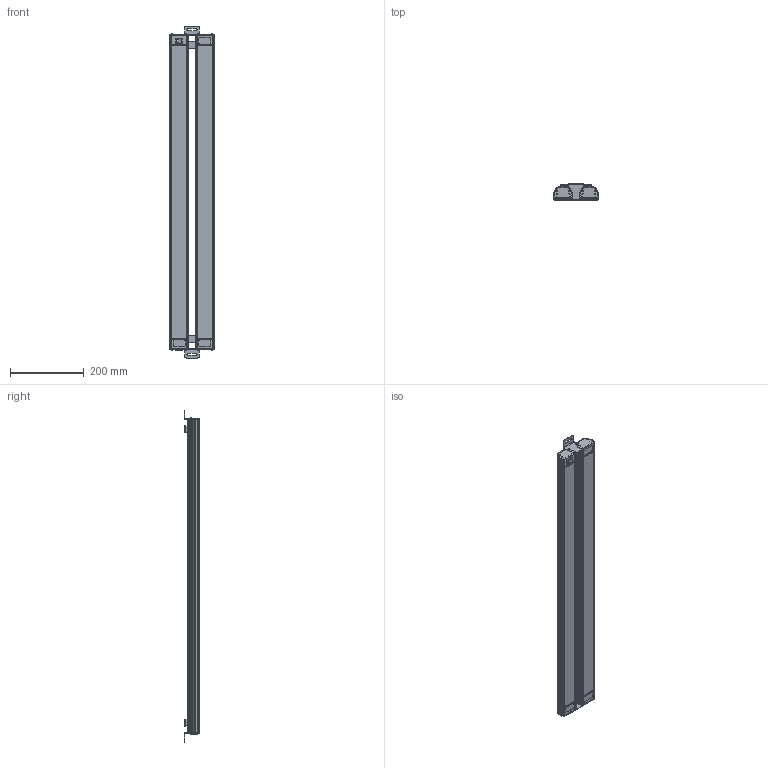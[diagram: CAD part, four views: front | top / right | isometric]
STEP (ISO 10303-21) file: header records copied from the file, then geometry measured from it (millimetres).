
FILE_DESCRIPTION (( 'STEP AP203' ), '1' );
FILE_NAME ('PS_WorkLED_SE_DUO_4040_SL.STEP', '2021-01-04T09:10:33', ( '' ), ( '' ), 'SwSTEP 2.0', 'SolidWorks 2019', '' );
FILE_SCHEMA (( 'CONFIG_CONTROL_DESIGN' ));
Length unit declared in the file: millimetre
Products named in the file (17): Befestigungsblech_Betriebsgerät_mit_Zugentlast_WorkLED_SE; Wieland_91.932.9053.1_Stecker; Blechendkappe; 00580068-Zylinderschr.m.Innensechskt.M3x5,DIN912; Rahmen_Schalter_ohneFenster_00400295; PS_WorkLED_SE_DUO_4040_SL; Aluprofil_WorkLED_SE_DUO_Aluprofil f. WorkLED SE DUO 40, 850mm, gefr„st, 2; Aluprofil_WorkLED_SE_DUO_Aluprofil f. WorkLED SE DUO 40, 850mm, gefr„st, 1; 00580046-Schraube M2,5x5_m_Senkkopf; 00600028_Blindniet_4,0x5,0; 00670408-Abdeckung_796mm; Blechendkappe_f〉 GST15 Stecker; Wippschalter_direkt_Schließer_1pol._Steckanschluss_1801.1202; 00590212_Blechschraube_2,9x13_DIN7981; Rahmen_Schalter_00400294; Brücke_Alu-Deckel; Unterteil_Alu-Brücke
Assembly tree (36 placements, depth 2):
  PS_WorkLED_SE_DUO_4040_SL
    00670408-Abdeckung_796mm  x2
    00590212_Blechschraube_2,9x13_DIN7981  x8
    Unterteil_Alu-Brücke  x2
    Brücke_Alu-Deckel  x2
    00580046-Schraube M2,5x5_m_Senkkopf  x4
    Blechendkappe_f〉 GST15 Stecker
    Blechendkappe
    Rahmen_Schalter_00400294
    Wippschalter_direkt_Schließer_1pol._Steckanschluss_1801.1202
    Rahmen_Schalter_ohneFenster_00400295  x3
    Wieland_91.932.9053.1_Stecker
    00580068-Zylinderschr.m.Innensechskt.M3x5,DIN912  x4
    Aluprofil_WorkLED_SE_DUO_Aluprofil f. WorkLED SE DUO 40, 850mm, gefr„st, 1
    Aluprofil_WorkLED_SE_DUO_Aluprofil f. WorkLED SE DUO 40, 850mm, gefr„st, 2
    Befestigungsblech_Betriebsgerät_mit_Zugentlast_WorkLED_SE  x2
    00600028_Blindniet_4,0x5,0  x2
Bounding box: 122.15 x 43.29 x 900 mm (x, y, z)
Volume: 717213.6 mm3; surface area: 871767.1 mm2
Topology: 37 solids, 37 shells, 1643 faces, 4442 edges, 2892 vertices
Faces by surface type: plane 923, cylinder 580, cone 55, bspline 52, torus 20, sphere 13
Full cylindrical faces by diameter (mm): 1.4 x2, 2 x3, 2.05 x4, 2.4 x8, 2.6 x3, 2.9 x12, 3 x12, 3.3 x5, 3.5 x4, 4 x13, 4.3 x3, 5.5 x4, 5.6 x8, 6 x2, 8 x8
Entity records: 39906 total; most frequent: CARTESIAN_POINT 7426, DIRECTION 6424, ORIENTED_EDGE 6240, EDGE_CURVE 3120, AXIS2_PLACEMENT_3D 2245, VERTEX_POINT 2082, LINE 1934, VECTOR 1934
